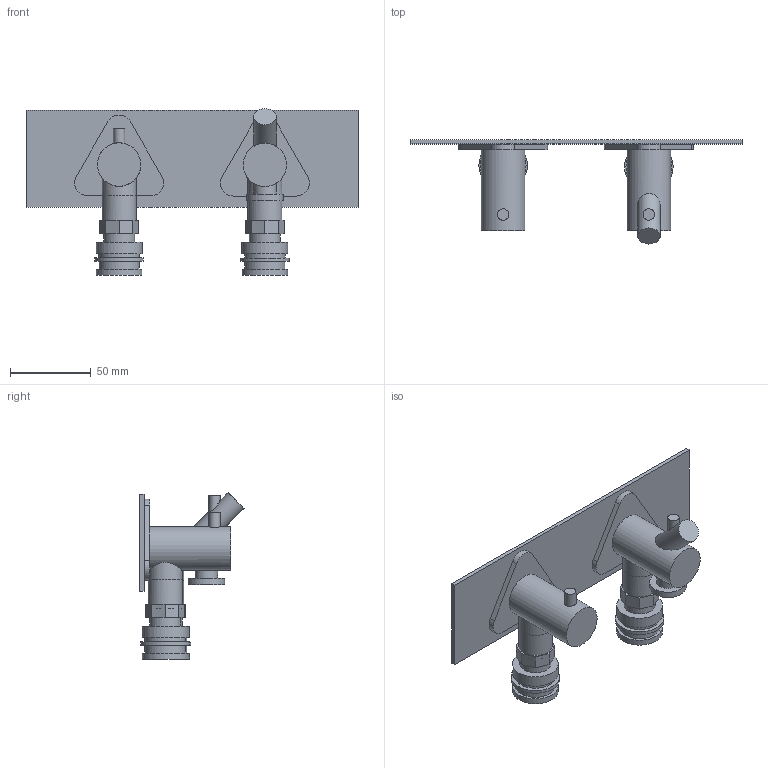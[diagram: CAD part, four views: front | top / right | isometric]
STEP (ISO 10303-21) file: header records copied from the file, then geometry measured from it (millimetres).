
FILE_DESCRIPTION(('STEP AP214'),'1');
FILE_NAME('Instaset_7877.STP','2025-09-23T13:21:17',(' '),(' '),'Spatial InterOp 3D',' ',' ');
FILE_SCHEMA(('AUTOMOTIVE_DESIGN { 1 0 10303 214 1 1 1 1 }'));
Length unit declared in the file: millimetre
Products named in the file (1): Quader
Bounding box: 205 x 64.27 x 102.94 mm (x, y, z)
Volume: 167254.3 mm3; surface area: 71470.7 mm2
Topology: 19 solids, 19 shells, 103 faces, 179 edges, 120 vertices
Faces by surface type: plane 74, cylinder 29
Full cylindrical faces by diameter (mm): 7 x2, 13.867 x1, 14 x1, 19.1 x2, 20.954 x2, 21 x2, 22.622 x1, 24.821 x2, 25 x2, 26.818 x2, 28.2 x2, 28.3 x2, 30 x2
Entity records: 2902 total; most frequent: CARTESIAN_POINT 776, DIRECTION 441, ORIENTED_EDGE 296, AXIS2_PLACEMENT_3D 177, EDGE_CURVE 148, EDGE_LOOP 132, VERTEX_POINT 112, ADVANCED_FACE 103
